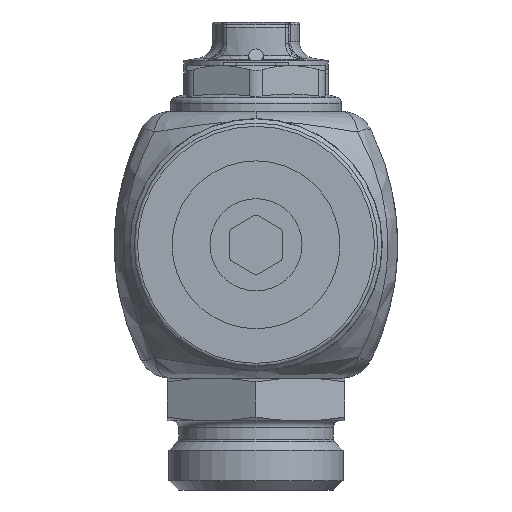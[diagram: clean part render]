
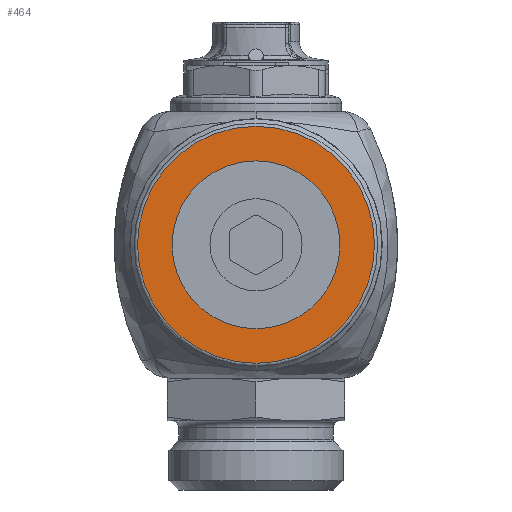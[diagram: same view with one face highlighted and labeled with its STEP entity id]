
A CAD part, front view. The second image highlights one B-rep face of the part: STEP entity #464.
In plain terms, the highlighted planar face has unit normal (0, -1, 0).
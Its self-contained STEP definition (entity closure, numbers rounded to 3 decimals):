
#464=ADVANCED_FACE('',(#14654,#14656),#14658,.F.);
#14654=FACE_BOUND('',#14655,.T.);
#14655=EDGE_LOOP('',(#17353));
#14656=FACE_BOUND('',#14657,.T.);
#14657=EDGE_LOOP('',(#17354));
#14658=PLANE('',#14659);
#14659=AXIS2_PLACEMENT_3D('',#14660,#14661,#14662);
#14660=CARTESIAN_POINT('',(0.,-95.75,0.));
#14661=DIRECTION('',(0.,1.,0.));
#14662=DIRECTION('',(-1.,0.,0.));
#17353=ORIENTED_EDGE('',*,*,#24036,.T.);
#17354=ORIENTED_EDGE('',*,*,#24065,.T.);
#24036=EDGE_CURVE('',#26524,#26524,#26525,.T.);
#24065=EDGE_CURVE('',#26571,#26571,#26572,.F.);
#26524=VERTEX_POINT('',#39292);
#26525=CIRCLE('',#39293,18.);
#26571=VERTEX_POINT('',#39405);
#26572=CIRCLE('',#39406,12.75);
#39292=CARTESIAN_POINT('',(18.,-95.75,0.));
#39293=AXIS2_PLACEMENT_3D('',#39294,#39295,#39296);
#39294=CARTESIAN_POINT('',(0.,-95.75,0.));
#39295=DIRECTION('',(0.,-1.,0.));
#39296=DIRECTION('',(1.,0.,0.));
#39405=CARTESIAN_POINT('',(12.75,-95.75,0.));
#39406=AXIS2_PLACEMENT_3D('',#39407,#39408,#39409);
#39407=CARTESIAN_POINT('',(0.,-95.75,0.));
#39408=DIRECTION('',(0.,-1.,0.));
#39409=DIRECTION('',(1.,0.,0.));
